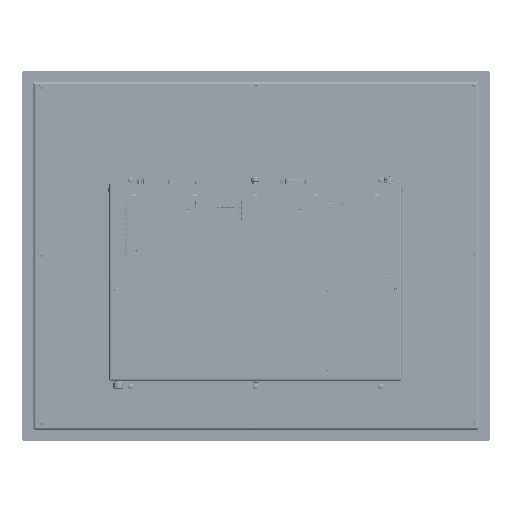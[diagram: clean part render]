
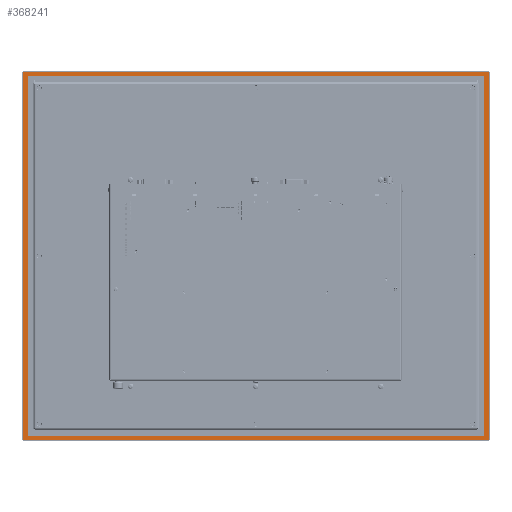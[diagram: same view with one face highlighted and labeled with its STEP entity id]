
A CAD part, front view. The second image highlights one B-rep face of the part: STEP entity #368241.
In plain terms, the highlighted planar face has unit normal (0, -1, 0).
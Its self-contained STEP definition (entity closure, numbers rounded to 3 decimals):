
#7617 = CIRCLE ( 'NONE', #680416, 1. ) ;
#11220 = FACE_OUTER_BOUND ( 'NONE', #525372, .T. ) ;
#11474 = EDGE_CURVE ( 'NONE', #42992, #52041, #252112, .T. ) ;
#12520 = CARTESIAN_POINT ( 'NONE',  ( 244., 0.5, 201. ) ) ;
#25976 = EDGE_CURVE ( 'NONE', #449255, #320008, #557451, .T. ) ;
#26058 = AXIS2_PLACEMENT_3D ( 'NONE', #464105, #39906, #698305 ) ;
#28712 = VERTEX_POINT ( 'NONE', #152284 ) ;
#33509 = DIRECTION ( 'NONE',  ( -1., 0., 0. ) ) ;
#39906 = DIRECTION ( 'NONE',  ( 0., 1., 0. ) ) ;
#42266 = CARTESIAN_POINT ( 'NONE',  ( -242., 0.5, 203. ) ) ;
#42992 = VERTEX_POINT ( 'NONE', #300780 ) ;
#43617 = EDGE_CURVE ( 'NONE', #617301, #42992, #365389, .T. ) ;
#47138 = ORIENTED_EDGE ( 'NONE', *, *, #684317, .F. ) ;
#52041 = VERTEX_POINT ( 'NONE', #194490 ) ;
#56140 = AXIS2_PLACEMENT_3D ( 'NONE', #587048, #292827, #347693 ) ;
#57107 = PLANE ( 'NONE',  #529878 ) ;
#62886 = VECTOR ( 'NONE', #151806, 1000. ) ;
#62959 = VECTOR ( 'NONE', #231339, 1000. ) ;
#66419 = AXIS2_PLACEMENT_3D ( 'NONE', #345581, #473012, #355824 ) ;
#71354 = DIRECTION ( 'NONE',  ( 0., 0., -1. ) ) ;
#73730 = AXIS2_PLACEMENT_3D ( 'NONE', #595461, #533098, #238787 ) ;
#89362 = LINE ( 'NONE', #762278, #266170 ) ;
#108877 = CIRCLE ( 'NONE', #66419, 2. ) ;
#119022 = LINE ( 'NONE', #176738, #62959 ) ;
#121522 = ORIENTED_EDGE ( 'NONE', *, *, #11474, .F. ) ;
#123920 = AXIS2_PLACEMENT_3D ( 'NONE', #196739, #313932, #433840 ) ;
#128321 = DIRECTION ( 'NONE',  ( 0., 0., -1. ) ) ;
#144046 = CARTESIAN_POINT ( 'NONE',  ( 238., 0.5, -178. ) ) ;
#146310 = ORIENTED_EDGE ( 'NONE', *, *, #257560, .F. ) ;
#146712 = CARTESIAN_POINT ( 'NONE',  ( -244., 0.5, -181. ) ) ;
#151806 = DIRECTION ( 'NONE',  ( 0., 0., 1. ) ) ;
#152284 = CARTESIAN_POINT ( 'NONE',  ( -244., 0.5, 201. ) ) ;
#167092 = EDGE_CURVE ( 'NONE', #502287, #617301, #7617, .T. ) ;
#169659 = EDGE_CURVE ( 'NONE', #414686, #213456, #274113, .T. ) ;
#176738 = CARTESIAN_POINT ( 'NONE',  ( -242., 0.5, 203. ) ) ;
#186858 = EDGE_CURVE ( 'NONE', #52041, #449255, #480699, .T. ) ;
#194234 = EDGE_CURVE ( 'NONE', #611403, #514213, #703234, .T. ) ;
#194490 = CARTESIAN_POINT ( 'NONE',  ( -238., 0.5, -178. ) ) ;
#196739 = CARTESIAN_POINT ( 'NONE',  ( 242., 0.5, -181. ) ) ;
#207416 = EDGE_LOOP ( 'NONE', ( #317157, #121522, #718745, #320159, #378758, #629059, #146310, #725510 ) ) ;
#208343 = DIRECTION ( 'NONE',  ( 1., 0., 0. ) ) ;
#211019 = EDGE_CURVE ( 'NONE', #685885, #611403, #119022, .T. ) ;
#213456 = VERTEX_POINT ( 'NONE', #506310 ) ;
#217350 = EDGE_CURVE ( 'NONE', #370569, #278236, #741392, .T. ) ;
#224542 = CARTESIAN_POINT ( 'NONE',  ( -238., 0.5, 198. ) ) ;
#231339 = DIRECTION ( 'NONE',  ( 1., 0., 0. ) ) ;
#238787 = DIRECTION ( 'NONE',  ( 1., 0., 0. ) ) ;
#252112 = CIRCLE ( 'NONE', #424981, 1. ) ;
#253728 = CARTESIAN_POINT ( 'NONE',  ( 239., 0.5, 197. ) ) ;
#257560 = EDGE_CURVE ( 'NONE', #320008, #370569, #89362, .T. ) ;
#266170 = VECTOR ( 'NONE', #403245, 1000. ) ;
#274113 = LINE ( 'NONE', #688396, #414009 ) ;
#278236 = VERTEX_POINT ( 'NONE', #306465 ) ;
#291960 = EDGE_CURVE ( 'NONE', #213456, #447123, #108877, .T. ) ;
#292827 = DIRECTION ( 'NONE',  ( 0., -1., 0. ) ) ;
#298655 = DIRECTION ( 'NONE',  ( 0., 0., 1. ) ) ;
#300780 = CARTESIAN_POINT ( 'NONE',  ( -239., 0.5, -177. ) ) ;
#306465 = CARTESIAN_POINT ( 'NONE',  ( 238., 0.5, 198. ) ) ;
#313932 = DIRECTION ( 'NONE',  ( 0., 1., 0. ) ) ;
#317157 = ORIENTED_EDGE ( 'NONE', *, *, #186858, .F. ) ;
#320008 = VERTEX_POINT ( 'NONE', #695485 ) ;
#320159 = ORIENTED_EDGE ( 'NONE', *, *, #167092, .F. ) ;
#331874 = DIRECTION ( 'NONE',  ( -1., 0., 0. ) ) ;
#343826 = DIRECTION ( 'NONE',  ( 0., -1., 0. ) ) ;
#345581 = CARTESIAN_POINT ( 'NONE',  ( -242., 0.5, -181. ) ) ;
#346664 = VECTOR ( 'NONE', #128321, 1000. ) ;
#347693 = DIRECTION ( 'NONE',  ( 0., 0., -1. ) ) ;
#348755 = DIRECTION ( 'NONE',  ( -1., 0., 0. ) ) ;
#355515 = LINE ( 'NONE', #425571, #718540 ) ;
#355824 = DIRECTION ( 'NONE',  ( 0., 0., -1. ) ) ;
#365389 = LINE ( 'NONE', #420138, #346664 ) ;
#368241 = ADVANCED_FACE ( 'NONE', ( #672175, #11220 ), #57107, .T. ) ;
#370569 = VERTEX_POINT ( 'NONE', #253728 ) ;
#371636 = VERTEX_POINT ( 'NONE', #467049 ) ;
#378758 = ORIENTED_EDGE ( 'NONE', *, *, #509537, .F. ) ;
#403245 = DIRECTION ( 'NONE',  ( 0., 0., 1. ) ) ;
#412221 = AXIS2_PLACEMENT_3D ( 'NONE', #574804, #634663, #33509 ) ;
#414009 = VECTOR ( 'NONE', #331874, 1000. ) ;
#414686 = VERTEX_POINT ( 'NONE', #626953 ) ;
#418991 = ORIENTED_EDGE ( 'NONE', *, *, #492885, .F. ) ;
#420138 = CARTESIAN_POINT ( 'NONE',  ( -239., 0.5, 197. ) ) ;
#424981 = AXIS2_PLACEMENT_3D ( 'NONE', #456061, #343826, #697867 ) ;
#425571 = CARTESIAN_POINT ( 'NONE',  ( 244., 0.5, 201. ) ) ;
#428901 = DIRECTION ( 'NONE',  ( 0., -1., 0. ) ) ;
#430635 = EDGE_CURVE ( 'NONE', #28712, #685885, #528968, .T. ) ;
#433840 = DIRECTION ( 'NONE',  ( 1., 0., 0. ) ) ;
#443632 = ORIENTED_EDGE ( 'NONE', *, *, #291960, .F. ) ;
#447123 = VERTEX_POINT ( 'NONE', #657196 ) ;
#449255 = VERTEX_POINT ( 'NONE', #144046 ) ;
#453278 = VECTOR ( 'NONE', #208343, 1000. ) ;
#453369 = ORIENTED_EDGE ( 'NONE', *, *, #169659, .F. ) ;
#456061 = CARTESIAN_POINT ( 'NONE',  ( -238., 0.5, -177. ) ) ;
#460479 = DIRECTION ( 'NONE',  ( -1., 0., 0. ) ) ;
#464105 = CARTESIAN_POINT ( 'NONE',  ( 242., 0.5, 201. ) ) ;
#467049 = CARTESIAN_POINT ( 'NONE',  ( 244., 0.5, -181. ) ) ;
#470362 = CIRCLE ( 'NONE', #123920, 2. ) ;
#472057 = ORIENTED_EDGE ( 'NONE', *, *, #714502, .F. ) ;
#473012 = DIRECTION ( 'NONE',  ( 0., 1., 0. ) ) ;
#479267 = ORIENTED_EDGE ( 'NONE', *, *, #430635, .F. ) ;
#480699 = LINE ( 'NONE', #567524, #453278 ) ;
#492885 = EDGE_CURVE ( 'NONE', #514213, #371636, #355515, .T. ) ;
#496670 = CARTESIAN_POINT ( 'NONE',  ( -239., 0.5, 197. ) ) ;
#500573 = ORIENTED_EDGE ( 'NONE', *, *, #194234, .F. ) ;
#502287 = VERTEX_POINT ( 'NONE', #224542 ) ;
#506310 = CARTESIAN_POINT ( 'NONE',  ( -242., 0.5, -183. ) ) ;
#509537 = EDGE_CURVE ( 'NONE', #278236, #502287, #687189, .T. ) ;
#514213 = VERTEX_POINT ( 'NONE', #12520 ) ;
#525372 = EDGE_LOOP ( 'NONE', ( #418991, #500573, #589597, #479267, #472057, #443632, #453369, #47138 ) ) ;
#528968 = CIRCLE ( 'NONE', #412221, 2. ) ;
#529878 = AXIS2_PLACEMENT_3D ( 'NONE', #653103, #593279, #348755 ) ;
#533098 = DIRECTION ( 'NONE',  ( 0., -1., 0. ) ) ;
#557451 = CIRCLE ( 'NONE', #56140, 1. ) ;
#567524 = CARTESIAN_POINT ( 'NONE',  ( -238., 0.5, -178. ) ) ;
#574804 = CARTESIAN_POINT ( 'NONE',  ( -242., 0.5, 201. ) ) ;
#587048 = CARTESIAN_POINT ( 'NONE',  ( 238., 0.5, -177. ) ) ;
#589597 = ORIENTED_EDGE ( 'NONE', *, *, #211019, .F. ) ;
#593279 = DIRECTION ( 'NONE',  ( 0., -1., 0. ) ) ;
#595461 = CARTESIAN_POINT ( 'NONE',  ( 238., 0.5, 197. ) ) ;
#603505 = VECTOR ( 'NONE', #460479, 1000. ) ;
#611403 = VERTEX_POINT ( 'NONE', #613309 ) ;
#612642 = LINE ( 'NONE', #146712, #62886 ) ;
#613309 = CARTESIAN_POINT ( 'NONE',  ( 242., 0.5, 203. ) ) ;
#617301 = VERTEX_POINT ( 'NONE', #496670 ) ;
#626953 = CARTESIAN_POINT ( 'NONE',  ( 242., 0.5, -183. ) ) ;
#629059 = ORIENTED_EDGE ( 'NONE', *, *, #217350, .F. ) ;
#634663 = DIRECTION ( 'NONE',  ( 0., 1., 0. ) ) ;
#642410 = CARTESIAN_POINT ( 'NONE',  ( 238., 0.5, 198. ) ) ;
#653103 = CARTESIAN_POINT ( 'NONE',  ( 0., 0.5, 0. ) ) ;
#657196 = CARTESIAN_POINT ( 'NONE',  ( -244., 0.5, -181. ) ) ;
#672175 = FACE_BOUND ( 'NONE', #207416, .T. ) ;
#680416 = AXIS2_PLACEMENT_3D ( 'NONE', #725464, #428901, #298655 ) ;
#684317 = EDGE_CURVE ( 'NONE', #371636, #414686, #470362, .T. ) ;
#685885 = VERTEX_POINT ( 'NONE', #42266 ) ;
#687189 = LINE ( 'NONE', #642410, #603505 ) ;
#688396 = CARTESIAN_POINT ( 'NONE',  ( 242., 0.5, -183. ) ) ;
#695485 = CARTESIAN_POINT ( 'NONE',  ( 239., 0.5, -177. ) ) ;
#697867 = DIRECTION ( 'NONE',  ( -1., 0., 0. ) ) ;
#698305 = DIRECTION ( 'NONE',  ( 0., 0., 1. ) ) ;
#703234 = CIRCLE ( 'NONE', #26058, 2. ) ;
#714502 = EDGE_CURVE ( 'NONE', #447123, #28712, #612642, .T. ) ;
#718540 = VECTOR ( 'NONE', #71354, 1000. ) ;
#718745 = ORIENTED_EDGE ( 'NONE', *, *, #43617, .F. ) ;
#725464 = CARTESIAN_POINT ( 'NONE',  ( -238., 0.5, 197. ) ) ;
#725510 = ORIENTED_EDGE ( 'NONE', *, *, #25976, .F. ) ;
#741392 = CIRCLE ( 'NONE', #73730, 1. ) ;
#762278 = CARTESIAN_POINT ( 'NONE',  ( 239., 0.5, -177. ) ) ;
